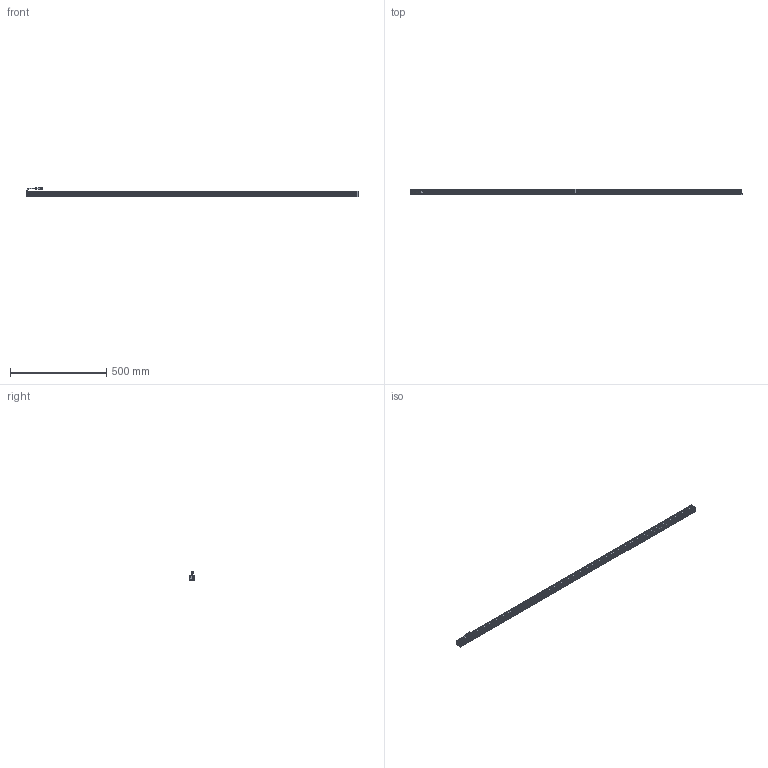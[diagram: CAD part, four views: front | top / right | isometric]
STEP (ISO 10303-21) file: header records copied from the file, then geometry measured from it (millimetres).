
FILE_DESCRIPTION (( 'STEP AP203' ), '1' );
FILE_NAME ('CK-BL172228.STEP', '2026-01-03T01:36:12', ( '' ), ( '' ), 'SwSTEP 2.0', 'SolidWorks 2022', '' );
FILE_SCHEMA (( 'CONFIG_CONTROL_DESIGN' ));
Length unit declared in the file: millimetre
Products named in the file (6): CK-BL172228-002A; CK-BL172228-003A; 十字沉头螺丝 M2x10; 光源线-01; CK-BL172228; CK-BL172228-001A
Assembly tree (11 placements, depth 2):
  CK-BL172228
    CK-BL172228-001A
    CK-BL172228-002A  x2
    CK-BL172228-003A
    光源线-01
    十字沉头螺丝 M2x10  x6
Bounding box: 1722 x 27 x 47.34 mm (x, y, z)
Volume: 546086.4 mm3; surface area: 477434 mm2
Topology: 13 solids, 13 shells, 575 faces, 1494 edges, 950 vertices
Faces by surface type: plane 337, cylinder 172, cone 46, bspline 20
Entity records: 13997 total; most frequent: CARTESIAN_POINT 2782, ORIENTED_EDGE 2202, DIRECTION 2163, EDGE_CURVE 1101, VECTOR 781, LINE 781, VERTEX_POINT 714, AXIS2_PLACEMENT_3D 691
